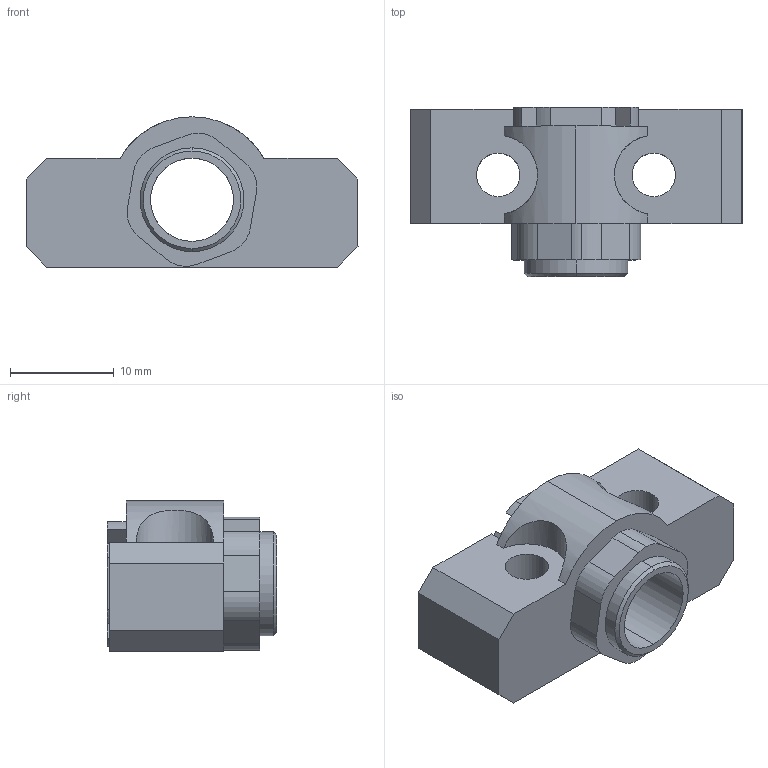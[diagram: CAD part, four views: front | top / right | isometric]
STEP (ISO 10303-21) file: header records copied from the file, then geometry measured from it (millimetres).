
FILE_DESCRIPTION (( 'STEP AP203' ), '1' );
FILE_NAME ('OP-76875_2.STEP', '2007-12-07T07:22:15', ( '' ), ( '' ), 'SwSTEP 2.0', 'SolidWorks 2004231', '' );
FILE_SCHEMA (( 'CONFIG_CONTROL_DESIGN' ));
Length unit declared in the file: millimetre
Products named in the file (1): OP-76875_2
Bounding box: 32 x 16.3 x 14.5 mm (x, y, z)
Volume: 3345.9 mm3; surface area: 2465.7 mm2
Topology: 1 solids, 1 shells, 69 faces, 193 edges, 128 vertices
Faces by surface type: plane 39, cylinder 28, cone 2
Entity records: 2384 total; most frequent: CARTESIAN_POINT 458, DIRECTION 393, ORIENTED_EDGE 386, EDGE_CURVE 193, AXIS2_PLACEMENT_3D 133, VERTEX_POINT 128, VECTOR 127, LINE 127
